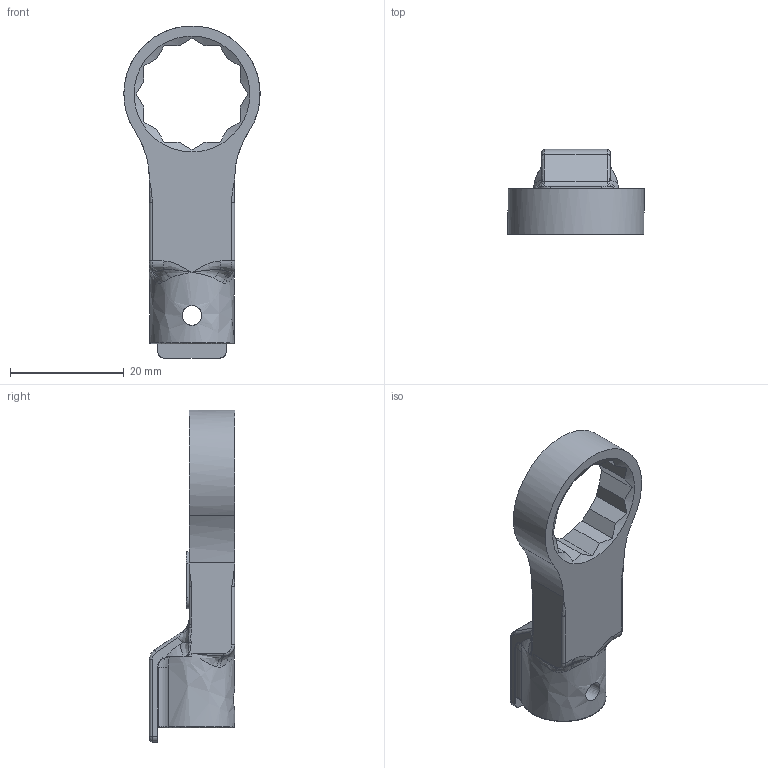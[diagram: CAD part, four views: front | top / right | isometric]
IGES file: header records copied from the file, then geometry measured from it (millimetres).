
Global section: file name: RH10DX17; native system: Autodesk Inventor 2016; preprocessor: unknown; author: Q600; date: 20151110.155308; units: millimetre
Bounding box: 24 x 15 x 58.49 mm (x, y, z)
Volume: 5548.2 mm3; surface area: 3625.8 mm2
Topology: 1 solids, 1 shells, 126 faces, 347 edges, 213 vertices
Faces by surface type: bspline 126
